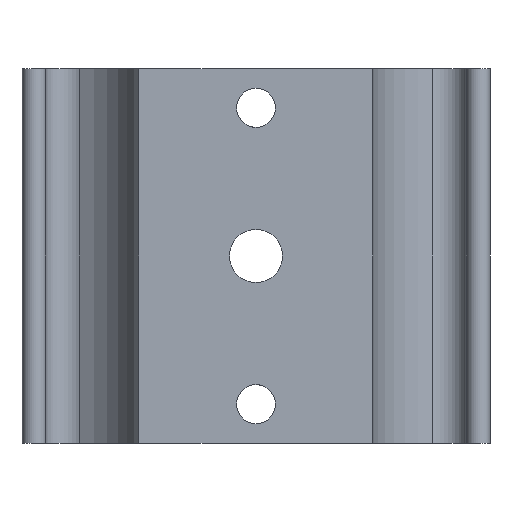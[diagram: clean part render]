
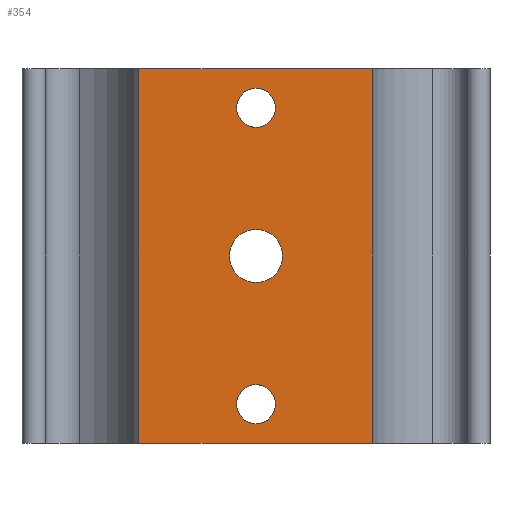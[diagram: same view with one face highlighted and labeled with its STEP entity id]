
A CAD part, front view. The second image highlights one B-rep face of the part: STEP entity #354.
In plain terms, the highlighted planar face has unit normal (0, -1, 0).
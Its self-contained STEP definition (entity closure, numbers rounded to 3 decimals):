
#11 = EDGE_LOOP ( 'NONE', ( #257, #276 ) ) ;
#26 = CARTESIAN_POINT ( 'NONE',  ( 0., -3., 21.5 ) ) ;
#30 = VERTEX_POINT ( 'NONE', #85 ) ;
#34 = AXIS2_PLACEMENT_3D ( 'NONE', #26, #103, #906 ) ;
#38 = CARTESIAN_POINT ( 'NONE',  ( 0., -3., 24. ) ) ;
#39 = CIRCLE ( 'NONE', #1122, 1.25 ) ;
#52 = VERTEX_POINT ( 'NONE', #701 ) ;
#57 = EDGE_CURVE ( 'NONE', #73, #66, #577, .T. ) ;
#65 = EDGE_LOOP ( 'NONE', ( #632, #812, #665, #945 ) ) ;
#66 = VERTEX_POINT ( 'NONE', #957 ) ;
#73 = VERTEX_POINT ( 'NONE', #81 ) ;
#81 = CARTESIAN_POINT ( 'NONE',  ( 0., -3., 13.7 ) ) ;
#85 = CARTESIAN_POINT ( 'NONE',  ( 0., -3., 1.25 ) ) ;
#88 = VECTOR ( 'NONE', #909, 1000. ) ;
#93 = VERTEX_POINT ( 'NONE', #1033 ) ;
#103 = DIRECTION ( 'NONE',  ( 0., -1., 0. ) ) ;
#137 = CARTESIAN_POINT ( 'NONE',  ( 7.5, -3., 24. ) ) ;
#146 = CARTESIAN_POINT ( 'NONE',  ( -7.5, -3., 0. ) ) ;
#151 = FACE_BOUND ( 'NONE', #385, .T. ) ;
#156 = VERTEX_POINT ( 'NONE', #642 ) ;
#159 = CARTESIAN_POINT ( 'NONE',  ( 0., -3., 2.5 ) ) ;
#191 = CIRCLE ( 'NONE', #34, 1.25 ) ;
#194 = DIRECTION ( 'NONE',  ( 0., 0., 1. ) ) ;
#208 = LINE ( 'NONE', #725, #259 ) ;
#213 = VERTEX_POINT ( 'NONE', #277 ) ;
#228 = EDGE_CURVE ( 'NONE', #52, #213, #208, .T. ) ;
#230 = DIRECTION ( 'NONE',  ( 0., 0., 1. ) ) ;
#257 = ORIENTED_EDGE ( 'NONE', *, *, #960, .F. ) ;
#259 = VECTOR ( 'NONE', #194, 1000. ) ;
#261 = CARTESIAN_POINT ( 'NONE',  ( 0., -3., 12. ) ) ;
#276 = ORIENTED_EDGE ( 'NONE', *, *, #450, .F. ) ;
#277 = CARTESIAN_POINT ( 'NONE',  ( -7.5, -3., 24. ) ) ;
#280 = CARTESIAN_POINT ( 'NONE',  ( 0., -3., 0. ) ) ;
#301 = CIRCLE ( 'NONE', #689, 1.25 ) ;
#304 = EDGE_CURVE ( 'NONE', #316, #93, #543, .T. ) ;
#316 = VERTEX_POINT ( 'NONE', #137 ) ;
#354 = ADVANCED_FACE ( 'NONE', ( #151, #876, #660, #967 ), #763, .F. ) ;
#356 = DIRECTION ( 'NONE',  ( 0., 0., 1. ) ) ;
#371 = CARTESIAN_POINT ( 'NONE',  ( 0., -3., 21.5 ) ) ;
#372 = ORIENTED_EDGE ( 'NONE', *, *, #692, .F. ) ;
#378 = DIRECTION ( 'NONE',  ( 0., 0., -1. ) ) ;
#385 = EDGE_LOOP ( 'NONE', ( #634, #817 ) ) ;
#406 = CARTESIAN_POINT ( 'NONE',  ( 0., -3., 12. ) ) ;
#425 = DIRECTION ( 'NONE',  ( 0., 1., 0. ) ) ;
#450 = EDGE_CURVE ( 'NONE', #156, #30, #39, .T. ) ;
#508 = EDGE_LOOP ( 'NONE', ( #843, #372 ) ) ;
#536 = DIRECTION ( 'NONE',  ( 0., 0., -1. ) ) ;
#538 = DIRECTION ( 'NONE',  ( 0., -1., 0. ) ) ;
#543 = LINE ( 'NONE', #834, #88 ) ;
#547 = DIRECTION ( 'NONE',  ( 0., 0., 1. ) ) ;
#554 = VECTOR ( 'NONE', #576, 1000. ) ;
#555 = EDGE_CURVE ( 'NONE', #875, #1057, #191, .T. ) ;
#576 = DIRECTION ( 'NONE',  ( 1., 0., 0. ) ) ;
#577 = CIRCLE ( 'NONE', #740, 1.7 ) ;
#624 = EDGE_CURVE ( 'NONE', #93, #52, #802, .T. ) ;
#632 = ORIENTED_EDGE ( 'NONE', *, *, #304, .F. ) ;
#634 = ORIENTED_EDGE ( 'NONE', *, *, #555, .F. ) ;
#642 = CARTESIAN_POINT ( 'NONE',  ( 0., -3., 3.75 ) ) ;
#660 = FACE_BOUND ( 'NONE', #508, .T. ) ;
#665 = ORIENTED_EDGE ( 'NONE', *, *, #228, .F. ) ;
#675 = EDGE_CURVE ( 'NONE', #213, #316, #690, .T. ) ;
#688 = DIRECTION ( 'NONE',  ( 0., 0., -1. ) ) ;
#689 = AXIS2_PLACEMENT_3D ( 'NONE', #371, #1042, #536 ) ;
#690 = LINE ( 'NONE', #38, #554 ) ;
#692 = EDGE_CURVE ( 'NONE', #66, #73, #832, .T. ) ;
#701 = CARTESIAN_POINT ( 'NONE',  ( -7.5, -3., 0. ) ) ;
#706 = CARTESIAN_POINT ( 'NONE',  ( 0., -3., 22.75 ) ) ;
#716 = VECTOR ( 'NONE', #1068, 1000. ) ;
#725 = CARTESIAN_POINT ( 'NONE',  ( -7.5, -3., 12. ) ) ;
#740 = AXIS2_PLACEMENT_3D ( 'NONE', #261, #874, #356 ) ;
#763 = PLANE ( 'NONE',  #844 ) ;
#770 = AXIS2_PLACEMENT_3D ( 'NONE', #406, #813, #547 ) ;
#802 = LINE ( 'NONE', #280, #716 ) ;
#812 = ORIENTED_EDGE ( 'NONE', *, *, #675, .F. ) ;
#813 = DIRECTION ( 'NONE',  ( 0., -1., 0. ) ) ;
#817 = ORIENTED_EDGE ( 'NONE', *, *, #1108, .F. ) ;
#832 = CIRCLE ( 'NONE', #770, 1.7 ) ;
#834 = CARTESIAN_POINT ( 'NONE',  ( 7.5, -3., 12. ) ) ;
#843 = ORIENTED_EDGE ( 'NONE', *, *, #57, .F. ) ;
#844 = AXIS2_PLACEMENT_3D ( 'NONE', #146, #425, #230 ) ;
#848 = CARTESIAN_POINT ( 'NONE',  ( 0., -3., 20.25 ) ) ;
#874 = DIRECTION ( 'NONE',  ( 0., -1., 0. ) ) ;
#875 = VERTEX_POINT ( 'NONE', #848 ) ;
#876 = FACE_BOUND ( 'NONE', #11, .T. ) ;
#906 = DIRECTION ( 'NONE',  ( 0., 0., -1. ) ) ;
#909 = DIRECTION ( 'NONE',  ( 0., 0., -1. ) ) ;
#945 = ORIENTED_EDGE ( 'NONE', *, *, #624, .F. ) ;
#957 = CARTESIAN_POINT ( 'NONE',  ( 0., -3., 10.3 ) ) ;
#960 = EDGE_CURVE ( 'NONE', #30, #156, #1084, .T. ) ;
#967 = FACE_OUTER_BOUND ( 'NONE', #65, .T. ) ;
#975 = CARTESIAN_POINT ( 'NONE',  ( 0., -3., 2.5 ) ) ;
#1033 = CARTESIAN_POINT ( 'NONE',  ( 7.5, -3., 0. ) ) ;
#1042 = DIRECTION ( 'NONE',  ( 0., -1., 0. ) ) ;
#1051 = AXIS2_PLACEMENT_3D ( 'NONE', #159, #1117, #688 ) ;
#1057 = VERTEX_POINT ( 'NONE', #706 ) ;
#1068 = DIRECTION ( 'NONE',  ( -1., 0., 0. ) ) ;
#1084 = CIRCLE ( 'NONE', #1051, 1.25 ) ;
#1108 = EDGE_CURVE ( 'NONE', #1057, #875, #301, .T. ) ;
#1117 = DIRECTION ( 'NONE',  ( 0., -1., 0. ) ) ;
#1122 = AXIS2_PLACEMENT_3D ( 'NONE', #975, #538, #378 ) ;
